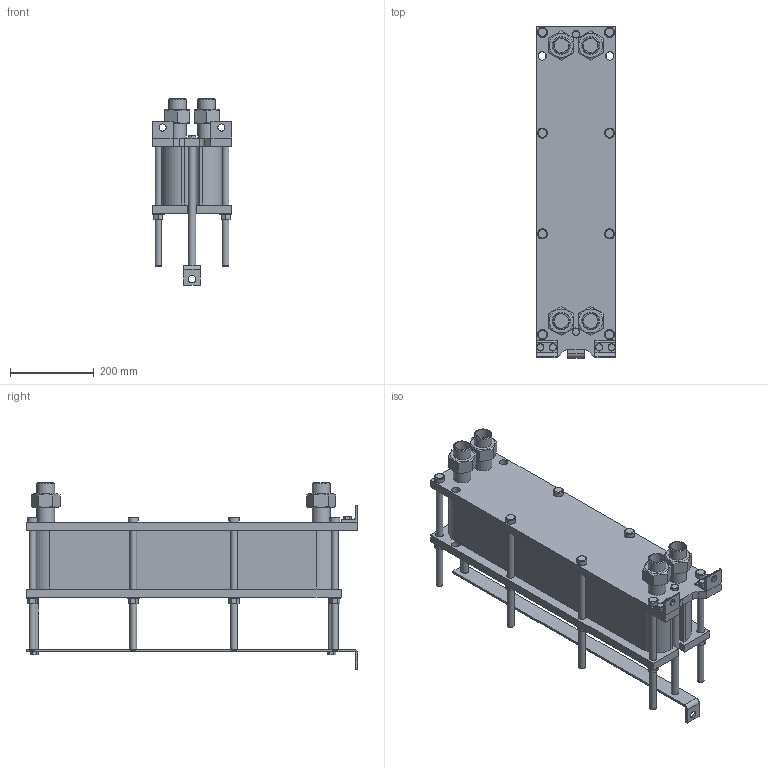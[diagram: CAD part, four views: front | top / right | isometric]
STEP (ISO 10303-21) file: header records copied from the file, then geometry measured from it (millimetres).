
FILE_DESCRIPTION(/* description */ (''),/* implementation_level */ '2;1');
FILE_NAME(/* name */ 'C:\Users\zhuro\Desktop\ENCO\TO\ЭН-008\ЭН-0,5-008-45-1.stp',/* time_stamp */ '2022-06-06T10:48:49+03:00',/* author */ ('zhuro'),/* organization */ (''),/* preprocessor_version */ 'ST-DEVELOPER v18.1',/* originating_system */ 'Autodesk Inventor 2022',/* authorisation */ '');
FILE_SCHEMA (('AUTOMOTIVE_DESIGN { 1 0 10303 214 3 1 1 }'));
Length unit declared in the file: millimetre
Products named in the file (1): ЭН-0,5-008-45-1
Bounding box: 190 x 790 x 445 mm (x, y, z)
Volume: 20959241.7 mm3; surface area: 1556289.1 mm2
Topology: 40 solids, 40 shells, 428 faces, 924 edges, 606 vertices
Faces by surface type: plane 273, cylinder 109, cone 40, torus 6
Full cylindrical faces by diameter (mm): 12 x6, 14 x2, 16 x20, 17 x8, 18 x19, 20 x5, 24 x8, 28 x8, 34.3 x8, 42.3 x8
Entity records: 15843 total; most frequent: CARTESIAN_POINT 5991, DIRECTION 1984, ORIENTED_EDGE 1848, EDGE_CURVE 924, AXIS2_PLACEMENT_3D 715, VERTEX_POINT 606, LINE 554, VECTOR 554
